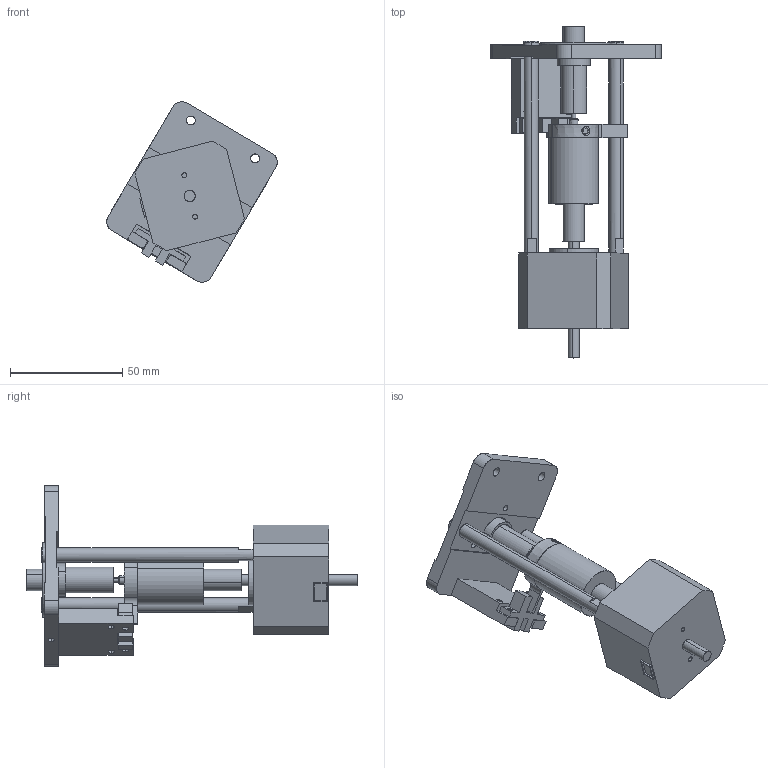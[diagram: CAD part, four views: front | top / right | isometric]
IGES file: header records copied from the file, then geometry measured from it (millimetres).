
Start section: SolidWorks IGES file using analytic representation for surfaces
Global section: file name: R:\ORIG\Model\Assembly Web\MOD91004\MOD91004 RB.IGS; native system: SolidWorks 2014; preprocessor: SolidWorks 2014; author: Slater.P; date: 151117.130450; units: inch
Bounding box: 75.92 x 147.83 x 80.41 mm (x, y, z)
Surface area: 39673.5 mm2 (no closed solid volume)
Topology: 0 solids, 0 shells, 444 faces, 6655 edges, 6653 vertices
Faces by surface type: bspline 234, revolution 210
